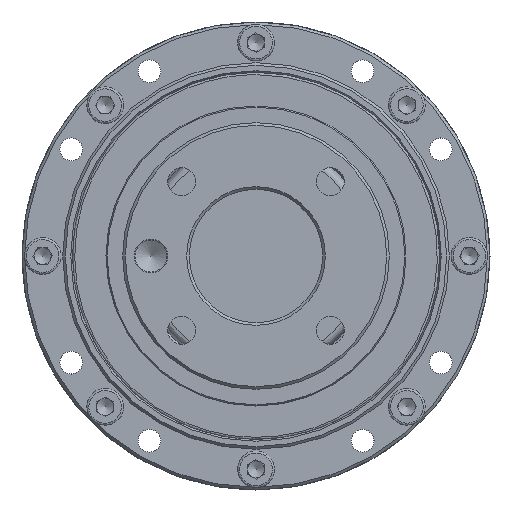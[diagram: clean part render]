
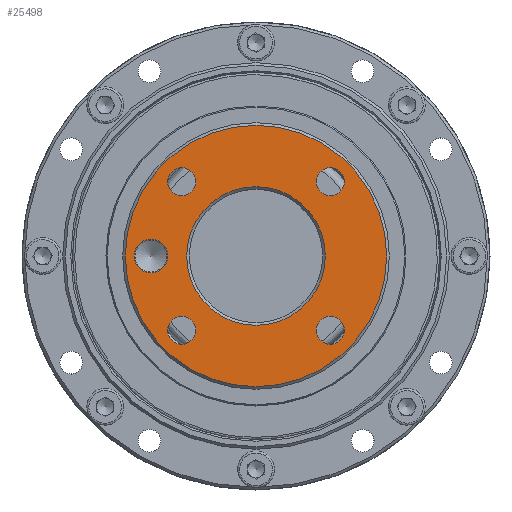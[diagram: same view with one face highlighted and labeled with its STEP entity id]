
A CAD part, left-side view. The second image highlights one B-rep face of the part: STEP entity #25498.
In plain terms, the highlighted planar face has unit normal (-1, 0, 0).
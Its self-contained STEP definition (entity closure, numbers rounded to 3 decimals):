
#64 = ORIENTED_EDGE ( 'NONE', *, *, #7148, .T. ) ;
#81 = CARTESIAN_POINT ( 'NONE',  ( -24.25, -11.137, -11.137 ) ) ;
#90 = EDGE_CURVE ( 'NONE', #7280, #7280, #8743, .T. ) ;
#412 = DIRECTION ( 'NONE',  ( 0., 0., 1. ) ) ;
#787 = AXIS2_PLACEMENT_3D ( 'NONE', #20964, #9409, #412 ) ;
#805 = CARTESIAN_POINT ( 'NONE',  ( -24.25, 11.137, 11.137 ) ) ;
#996 = FACE_OUTER_BOUND ( 'NONE', #14557, .T. ) ;
#1439 = FACE_BOUND ( 'NONE', #7360, .T. ) ;
#2114 = CARTESIAN_POINT ( 'NONE',  ( -24.25, 11.137, -11.137 ) ) ;
#2473 = DIRECTION ( 'NONE',  ( 0., 0., 1. ) ) ;
#2475 = CARTESIAN_POINT ( 'NONE',  ( -24.25, -11.137, 13.237 ) ) ;
#2629 = DIRECTION ( 'NONE',  ( 1., 0., 0. ) ) ;
#2795 = CIRCLE ( 'NONE', #8057, 19.6 ) ;
#3759 = ORIENTED_EDGE ( 'NONE', *, *, #16209, .T. ) ;
#4341 = AXIS2_PLACEMENT_3D ( 'NONE', #2114, #18284, #13924 ) ;
#4856 = CARTESIAN_POINT ( 'NONE',  ( -24.25, -11.137, 11.137 ) ) ;
#4928 = CARTESIAN_POINT ( 'NONE',  ( -24.25, -11.137, -9.037 ) ) ;
#5206 = CARTESIAN_POINT ( 'NONE',  ( -24.25, 0., 10.4 ) ) ;
#6004 = CARTESIAN_POINT ( 'NONE',  ( -24.25, 11.137, -9.037 ) ) ;
#6075 = AXIS2_PLACEMENT_3D ( 'NONE', #28059, #7945, #21727 ) ;
#7148 = EDGE_CURVE ( 'NONE', #18484, #18484, #25824, .T. ) ;
#7280 = VERTEX_POINT ( 'NONE', #2475 ) ;
#7336 = EDGE_LOOP ( 'NONE', ( #3759 ) ) ;
#7360 = EDGE_LOOP ( 'NONE', ( #24747 ) ) ;
#7366 = CARTESIAN_POINT ( 'NONE',  ( -24.25, 19.6, 0. ) ) ;
#7741 = VERTEX_POINT ( 'NONE', #5206 ) ;
#7846 = VERTEX_POINT ( 'NONE', #28860 ) ;
#7919 = ORIENTED_EDGE ( 'NONE', *, *, #19920, .T. ) ;
#7945 = DIRECTION ( 'NONE',  ( -1., 0., 0. ) ) ;
#8057 = AXIS2_PLACEMENT_3D ( 'NONE', #18804, #15536, #23321 ) ;
#8743 = CIRCLE ( 'NONE', #19751, 2.1 ) ;
#8961 = EDGE_CURVE ( 'NONE', #7846, #7846, #19460, .T. ) ;
#9409 = DIRECTION ( 'NONE',  ( -1., 0., 0. ) ) ;
#10134 = FACE_BOUND ( 'NONE', #11303, .T. ) ;
#10273 = EDGE_LOOP ( 'NONE', ( #64 ) ) ;
#11303 = EDGE_LOOP ( 'NONE', ( #26184 ) ) ;
#11738 = DIRECTION ( 'NONE',  ( 1., 0., 0. ) ) ;
#12359 = FACE_BOUND ( 'NONE', #27515, .T. ) ;
#13085 = EDGE_CURVE ( 'NONE', #23260, #23260, #2795, .T. ) ;
#13924 = DIRECTION ( 'NONE',  ( 0., 0., 1. ) ) ;
#14121 = DIRECTION ( 'NONE',  ( 1., 0., 0. ) ) ;
#14188 = VERTEX_POINT ( 'NONE', #4928 ) ;
#14332 = CIRCLE ( 'NONE', #4341, 2.1 ) ;
#14449 = FACE_BOUND ( 'NONE', #22983, .T. ) ;
#14557 = EDGE_LOOP ( 'NONE', ( #18111 ) ) ;
#14601 = FACE_BOUND ( 'NONE', #7336, .T. ) ;
#15536 = DIRECTION ( 'NONE',  ( 1., 0., 0. ) ) ;
#16069 = ORIENTED_EDGE ( 'NONE', *, *, #27076, .F. ) ;
#16209 = EDGE_CURVE ( 'NONE', #26557, #26557, #14332, .T. ) ;
#16710 = FACE_BOUND ( 'NONE', #10273, .T. ) ;
#18111 = ORIENTED_EDGE ( 'NONE', *, *, #13085, .F. ) ;
#18284 = DIRECTION ( 'NONE',  ( 1., 0., 0. ) ) ;
#18484 = VERTEX_POINT ( 'NONE', #25858 ) ;
#18804 = CARTESIAN_POINT ( 'NONE',  ( -24.25, 0., 0. ) ) ;
#18989 = CIRCLE ( 'NONE', #6075, 10.4 ) ;
#19460 = CIRCLE ( 'NONE', #787, 2.5 ) ;
#19586 = DIRECTION ( 'NONE',  ( 1., 0., 0. ) ) ;
#19751 = AXIS2_PLACEMENT_3D ( 'NONE', #4856, #11738, #23304 ) ;
#19920 = EDGE_CURVE ( 'NONE', #14188, #14188, #24148, .T. ) ;
#20964 = CARTESIAN_POINT ( 'NONE',  ( -24.25, 15.75, 0. ) ) ;
#21540 = PLANE ( 'NONE',  #28130 ) ;
#21727 = DIRECTION ( 'NONE',  ( 0., 0., 1. ) ) ;
#22472 = AXIS2_PLACEMENT_3D ( 'NONE', #805, #14121, #23749 ) ;
#22983 = EDGE_LOOP ( 'NONE', ( #16069 ) ) ;
#23260 = VERTEX_POINT ( 'NONE', #7366 ) ;
#23304 = DIRECTION ( 'NONE',  ( 0., 0., 1. ) ) ;
#23321 = DIRECTION ( 'NONE',  ( 0., 1., 0. ) ) ;
#23749 = DIRECTION ( 'NONE',  ( 0., 0., 1. ) ) ;
#23946 = CARTESIAN_POINT ( 'NONE',  ( -24.25, 10., 0. ) ) ;
#24148 = CIRCLE ( 'NONE', #26061, 2.1 ) ;
#24747 = ORIENTED_EDGE ( 'NONE', *, *, #8961, .F. ) ;
#25498 = ADVANCED_FACE ( 'NONE', ( #14601, #12359, #10134, #16710, #1439, #14449, #996 ), #21540, .F. ) ;
#25824 = CIRCLE ( 'NONE', #22472, 2.1 ) ;
#25858 = CARTESIAN_POINT ( 'NONE',  ( -24.25, 11.137, 13.237 ) ) ;
#26061 = AXIS2_PLACEMENT_3D ( 'NONE', #81, #2629, #2473 ) ;
#26184 = ORIENTED_EDGE ( 'NONE', *, *, #90, .T. ) ;
#26189 = DIRECTION ( 'NONE',  ( 0., 0., -1. ) ) ;
#26557 = VERTEX_POINT ( 'NONE', #6004 ) ;
#27076 = EDGE_CURVE ( 'NONE', #7741, #7741, #18989, .T. ) ;
#27515 = EDGE_LOOP ( 'NONE', ( #7919 ) ) ;
#28059 = CARTESIAN_POINT ( 'NONE',  ( -24.25, 0., 0. ) ) ;
#28130 = AXIS2_PLACEMENT_3D ( 'NONE', #23946, #19586, #26189 ) ;
#28860 = CARTESIAN_POINT ( 'NONE',  ( -24.25, 15.75, 2.5 ) ) ;
